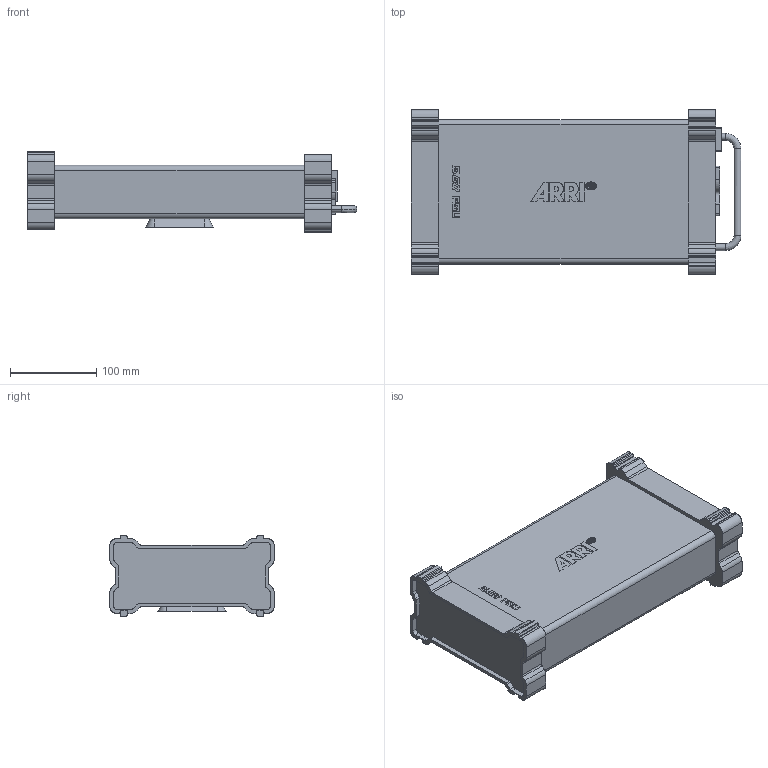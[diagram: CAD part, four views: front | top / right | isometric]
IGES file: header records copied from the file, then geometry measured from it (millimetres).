
Start section: SolidWorks IGES file using analytic representation for surfaces
Global section: file name: L:\0650\Reduziertes Modell\PSU S60S30\PSU Transfer\S60 PSU.igs; native system: SolidWorks 2013; preprocessor: SolidWorks 2013; author: huttner; date: 151222.115942; units: millimetre
Bounding box: 383 x 191.12 x 94 mm (x, y, z)
Surface area: 223334.3 mm2 (no closed solid volume)
Topology: 0 solids, 0 shells, 601 faces, 6001 edges, 6001 vertices
Faces by surface type: bspline 314, revolution 287
